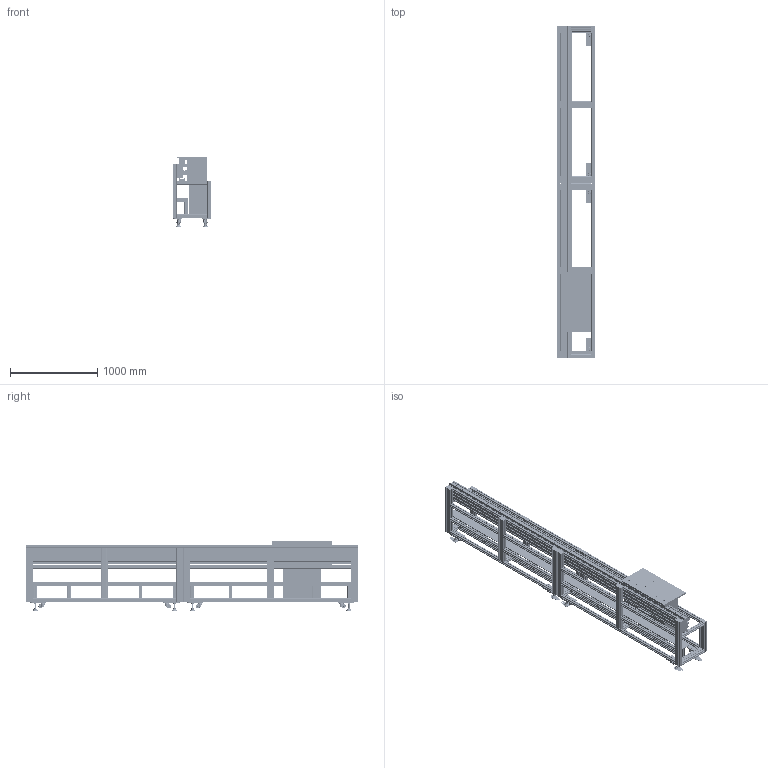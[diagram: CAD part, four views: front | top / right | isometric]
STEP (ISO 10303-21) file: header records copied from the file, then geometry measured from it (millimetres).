
FILE_DESCRIPTION((''),'2;1');
FILE_NAME('C:\Documents and Settings\土屋\デスクトップ\バックアップフォルダ\データ\櫻井 3Dデータ\4kg可搬 3D図面 改良\RHLS80160V.stp','2020-06-10T16:51:36',('y'),(''),'Autodesk Inventor 11','Autodesk Inventor 11','');
FILE_SCHEMA(('AUTOMOTIVE_DESIGN { 1 0 10303 214 1 1 1 1 }'));
Length unit declared in the file: millimetre
Products named in the file (44): ロボット搬送4kg可搬 ロボット無しver; 1; 2; 3; 4; 5; 6; 7; 8; 9; 10; 11; 12; 13; 14; 15; 16; 17; 18; 19; 20; 21; 22; 23; 24; LSIJ6545キャリッジ1; LSIJ6545ユニット部; LSIJ6545ユニット部品; LSIJ6545ユニット部品2; 25; アジャスタプレート; キャスターＢ; 4kg可搬 アンカー固定用 M16 アジャスター; JIS B 1181 -仕上程度 並 等級 1  - メートル 等級 1 仕上程度 並 M16; 26; 27; 28; 29; 30; 31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
Assembly tree (135 placements, depth 4):
  ロボット搬送4kg可搬 ロボット無しver
    1  x8
    2  x8
    3  x2
    4  x8
    5  x8
    6  x2
    7
    8  x2
    9
    10  x10
    11  x2
    12  x2
    13  x6
    14  x2
    15  x4
    16  x2
    17  x4
    18  x14
    19
    20
    21  x2
    22  x3
    23  x3
    24  x6
      LSIJ6545キャリッジ1
      LSIJ6545ユニット部
        LSIJ6545ユニット部品
        LSIJ6545ユニット部品2  x2
    25  x4
      アジャスタプレート
      キャスターＢ
      4kg可搬 アンカー固定用 M16 アジャスター
      JIS B 1181 -仕上程度 並 等級 1  - メートル 等級 1 仕上程度 並 M16
    26  x4
      キャスターＢ
      アジャスタプレート
      4kg可搬 アンカー固定用 M16 アジャスター
      JIS B 1181 -仕上程度 並 等級 1  - メートル 等級 1 仕上程度 並 M16
    27
    28
    29
    30
    31
    32
    33
    34
    35
Bounding box: 435 x 3803.5 x 809.5 mm (x, y, z)
Volume: 127740923.5 mm3; surface area: 33017747.6 mm2
Topology: 187 solids, 187 shells, 16080 faces, 45028 edges, 29906 vertices
Faces by surface type: plane 8504, cylinder 5888, bspline 1280, cone 272, torus 128, sphere 8
Full cylindrical faces by diameter (mm): 5 x32, 6 x20, 6.5 x32, 6.8 x32, 7 x44, 8 x20, 9 x32, 12 x24, 13 x8, 14 x8, 16 x8, 18 x24, 21 x24, 30 x40, 35 x48, 47.828 x8
Entity records: 159582 total; most frequent: CARTESIAN_POINT 32595, ORIENTED_EDGE 26232, DIRECTION 26200, EDGE_CURVE 13116, VERTEX_POINT 8936, VECTOR 8814, LINE 8814, AXIS2_PLACEMENT_3D 8693
